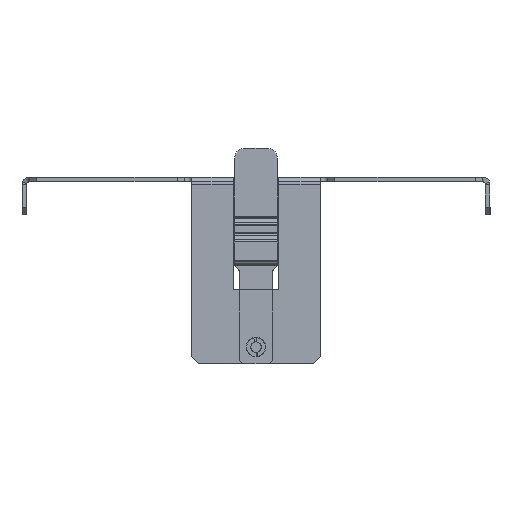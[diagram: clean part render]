
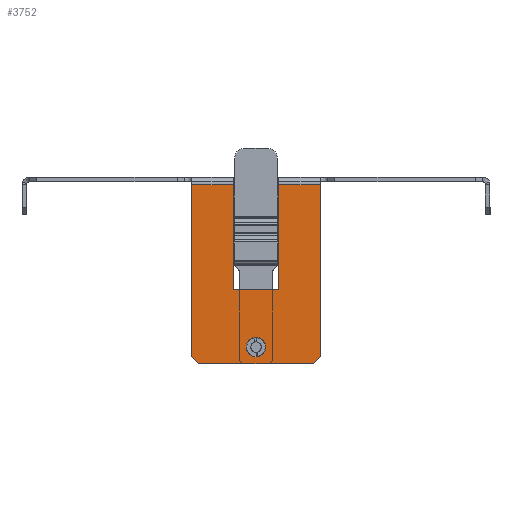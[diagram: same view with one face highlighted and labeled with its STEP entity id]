
A CAD part, left-side view. The second image highlights one B-rep face of the part: STEP entity #3752.
In plain terms, the highlighted planar face has unit normal (-1, 0, 0).
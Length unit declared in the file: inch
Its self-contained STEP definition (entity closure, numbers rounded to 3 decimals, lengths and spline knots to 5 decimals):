
#5 = CARTESIAN_POINT ( 'NONE',  ( -10.6, 0.275, -1.302 ) ) ;
#7 = VECTOR ( 'NONE', #4072, 39.37008 ) ;
#10 = LINE ( 'NONE', #1535, #1432 ) ;
#82 = VERTEX_POINT ( 'NONE', #3848 ) ;
#95 = FACE_OUTER_BOUND ( 'NONE', #5503, .T. ) ;
#99 = VERTEX_POINT ( 'NONE', #5234 ) ;
#168 = DIRECTION ( 'NONE',  ( 0., 1., 0. ) ) ;
#212 = AXIS2_PLACEMENT_3D ( 'NONE', #5328, #3074, #5296 ) ;
#240 = ORIENTED_EDGE ( 'NONE', *, *, #1853, .T. ) ;
#247 = CARTESIAN_POINT ( 'NONE',  ( -10.6, 0., -2.194 ) ) ;
#375 = AXIS2_PLACEMENT_3D ( 'NONE', #2814, #2779, #4153 ) ;
#385 = VERTEX_POINT ( 'NONE', #3664 ) ;
#397 = EDGE_CURVE ( 'NONE', #798, #385, #4012, .T. ) ;
#472 = DIRECTION ( 'NONE',  ( 0., 0., 1. ) ) ;
#587 = ORIENTED_EDGE ( 'NONE', *, *, #4775, .F. ) ;
#599 = CARTESIAN_POINT ( 'NONE',  ( -10.6, -0.69, -2.194 ) ) ;
#610 = VERTEX_POINT ( 'NONE', #1173 ) ;
#722 = EDGE_CURVE ( 'NONE', #3784, #82, #4081, .T. ) ;
#774 = CARTESIAN_POINT ( 'NONE',  ( -10.6, 0.275, -0.032 ) ) ;
#781 = EDGE_CURVE ( 'NONE', #2397, #610, #936, .T. ) ;
#798 = VERTEX_POINT ( 'NONE', #1383 ) ;
#876 = DIRECTION ( 'NONE',  ( 1., 0., 0. ) ) ;
#900 = VECTOR ( 'NONE', #168, 39.37008 ) ;
#936 = LINE ( 'NONE', #1774, #2975 ) ;
#1139 = EDGE_CURVE ( 'NONE', #1871, #610, #5235, .T. ) ;
#1149 = CARTESIAN_POINT ( 'NONE',  ( -10.6, 0.69, -2.194 ) ) ;
#1164 = ORIENTED_EDGE ( 'NONE', *, *, #3751, .F. ) ;
#1173 = CARTESIAN_POINT ( 'NONE',  ( -10.6, 0.775, -0.032 ) ) ;
#1193 = DIRECTION ( 'NONE',  ( 0., 1., 0. ) ) ;
#1194 = LINE ( 'NONE', #247, #4758 ) ;
#1229 = CIRCLE ( 'NONE', #212, 0.1175 ) ;
#1359 = PLANE ( 'NONE',  #4785 ) ;
#1383 = CARTESIAN_POINT ( 'NONE',  ( -10.6, 0., -2.1115 ) ) ;
#1432 = VECTOR ( 'NONE', #3741, 39.37008 ) ;
#1535 = CARTESIAN_POINT ( 'NONE',  ( -10.6, -0.69, -2.194 ) ) ;
#1684 = EDGE_CURVE ( 'NONE', #4049, #4202, #1194, .T. ) ;
#1692 = CARTESIAN_POINT ( 'NONE',  ( -10.6, 0.775, -2.109 ) ) ;
#1774 = CARTESIAN_POINT ( 'NONE',  ( -10.6, 0.775, 0. ) ) ;
#1800 = DIRECTION ( 'NONE',  ( 0., 0., 1. ) ) ;
#1853 = EDGE_CURVE ( 'NONE', #99, #3784, #4271, .T. ) ;
#1857 = VECTOR ( 'NONE', #2179, 39.37008 ) ;
#1871 = VERTEX_POINT ( 'NONE', #774 ) ;
#1894 = EDGE_CURVE ( 'NONE', #3241, #1871, #4484, .T. ) ;
#1980 = DIRECTION ( 'NONE',  ( 0., 1., 0. ) ) ;
#2041 = VERTEX_POINT ( 'NONE', #3008 ) ;
#2094 = CARTESIAN_POINT ( 'NONE',  ( -10.6, 0.775, -0.032 ) ) ;
#2141 = ORIENTED_EDGE ( 'NONE', *, *, #1139, .T. ) ;
#2179 = DIRECTION ( 'NONE',  ( 0., 0.707, 0.707 ) ) ;
#2196 = ORIENTED_EDGE ( 'NONE', *, *, #5156, .F. ) ;
#2397 = VERTEX_POINT ( 'NONE', #1692 ) ;
#2760 = VECTOR ( 'NONE', #1193, 39.37008 ) ;
#2779 = DIRECTION ( 'NONE',  ( -1., 0., 0. ) ) ;
#2814 = CARTESIAN_POINT ( 'NONE',  ( -10.6, 0., -1.994 ) ) ;
#2975 = VECTOR ( 'NONE', #5246, 39.37008 ) ;
#3008 = CARTESIAN_POINT ( 'NONE',  ( -10.6, -0.775, -2.109 ) ) ;
#3074 = DIRECTION ( 'NONE',  ( -1., 0., 0. ) ) ;
#3241 = VERTEX_POINT ( 'NONE', #5 ) ;
#3479 = CARTESIAN_POINT ( 'NONE',  ( -10.6, 0., 0. ) ) ;
#3541 = CARTESIAN_POINT ( 'NONE',  ( -10.6, -0.775, 0. ) ) ;
#3621 = CARTESIAN_POINT ( 'NONE',  ( -10.6, -0.275, -1.302 ) ) ;
#3644 = EDGE_LOOP ( 'NONE', ( #4273, #4470 ) ) ;
#3664 = CARTESIAN_POINT ( 'NONE',  ( -10.6, 0., -1.8765 ) ) ;
#3741 = DIRECTION ( 'NONE',  ( 0., 0.707, -0.707 ) ) ;
#3751 = EDGE_CURVE ( 'NONE', #4202, #2397, #5613, .T. ) ;
#3752 = ADVANCED_FACE ( 'NONE', ( #5347, #95 ), #1359, .F. ) ;
#3784 = VERTEX_POINT ( 'NONE', #5305 ) ;
#3834 = ORIENTED_EDGE ( 'NONE', *, *, #781, .F. ) ;
#3848 = CARTESIAN_POINT ( 'NONE',  ( -10.6, -0.275, -1.302 ) ) ;
#3884 = DIRECTION ( 'NONE',  ( 0., 0., -1. ) ) ;
#3929 = ORIENTED_EDGE ( 'NONE', *, *, #4633, .T. ) ;
#4012 = CIRCLE ( 'NONE', #375, 0.1175 ) ;
#4049 = VERTEX_POINT ( 'NONE', #599 ) ;
#4060 = ORIENTED_EDGE ( 'NONE', *, *, #722, .T. ) ;
#4071 = ORIENTED_EDGE ( 'NONE', *, *, #1894, .T. ) ;
#4072 = DIRECTION ( 'NONE',  ( 0., 0., -1. ) ) ;
#4081 = LINE ( 'NONE', #5623, #5105 ) ;
#4142 = ORIENTED_EDGE ( 'NONE', *, *, #1684, .F. ) ;
#4153 = DIRECTION ( 'NONE',  ( 0., 0., 1. ) ) ;
#4202 = VERTEX_POINT ( 'NONE', #1149 ) ;
#4271 = LINE ( 'NONE', #2094, #4554 ) ;
#4273 = ORIENTED_EDGE ( 'NONE', *, *, #397, .F. ) ;
#4277 = CARTESIAN_POINT ( 'NONE',  ( -10.6, 0.775, -0.032 ) ) ;
#4303 = CARTESIAN_POINT ( 'NONE',  ( -10.6, 0.275, 0.298 ) ) ;
#4309 = LINE ( 'NONE', #3541, #7 ) ;
#4470 = ORIENTED_EDGE ( 'NONE', *, *, #4524, .F. ) ;
#4484 = LINE ( 'NONE', #4303, #5554 ) ;
#4524 = EDGE_CURVE ( 'NONE', #385, #798, #1229, .T. ) ;
#4554 = VECTOR ( 'NONE', #5523, 39.37008 ) ;
#4633 = EDGE_CURVE ( 'NONE', #82, #3241, #4869, .T. ) ;
#4758 = VECTOR ( 'NONE', #1980, 39.37008 ) ;
#4775 = EDGE_CURVE ( 'NONE', #2041, #4049, #10, .T. ) ;
#4785 = AXIS2_PLACEMENT_3D ( 'NONE', #3479, #876, #1800 ) ;
#4813 = CARTESIAN_POINT ( 'NONE',  ( -10.6, 0.775, -2.109 ) ) ;
#4869 = LINE ( 'NONE', #3621, #900 ) ;
#5105 = VECTOR ( 'NONE', #3884, 39.37008 ) ;
#5156 = EDGE_CURVE ( 'NONE', #99, #2041, #4309, .T. ) ;
#5234 = CARTESIAN_POINT ( 'NONE',  ( -10.6, -0.775, -0.032 ) ) ;
#5235 = LINE ( 'NONE', #4277, #2760 ) ;
#5246 = DIRECTION ( 'NONE',  ( 0., 0., 1. ) ) ;
#5296 = DIRECTION ( 'NONE',  ( 0., 0., 1. ) ) ;
#5305 = CARTESIAN_POINT ( 'NONE',  ( -10.6, -0.275, -0.032 ) ) ;
#5328 = CARTESIAN_POINT ( 'NONE',  ( -10.6, 0., -1.994 ) ) ;
#5347 = FACE_BOUND ( 'NONE', #3644, .T. ) ;
#5503 = EDGE_LOOP ( 'NONE', ( #2196, #240, #4060, #3929, #4071, #2141, #3834, #1164, #4142, #587 ) ) ;
#5523 = DIRECTION ( 'NONE',  ( 0., 1., 0. ) ) ;
#5554 = VECTOR ( 'NONE', #472, 39.37008 ) ;
#5613 = LINE ( 'NONE', #4813, #1857 ) ;
#5623 = CARTESIAN_POINT ( 'NONE',  ( -10.6, -0.275, 0.298 ) ) ;
